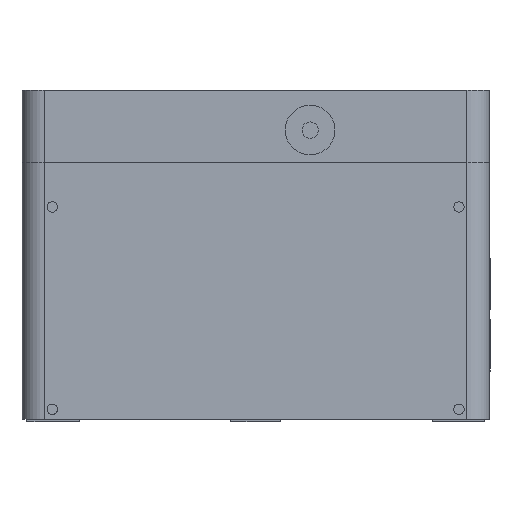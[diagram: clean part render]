
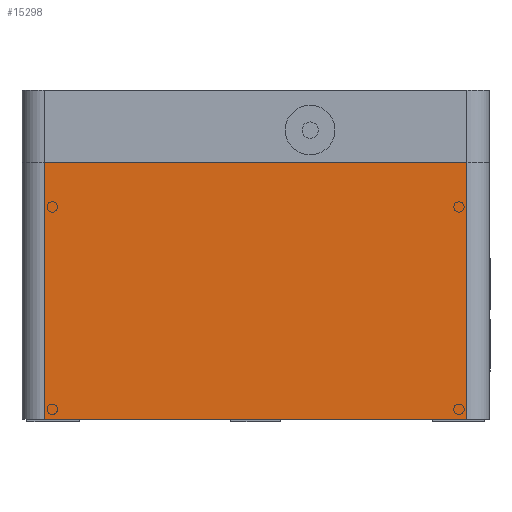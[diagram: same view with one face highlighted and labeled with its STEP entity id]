
A CAD part, front view. The second image highlights one B-rep face of the part: STEP entity #15298.
In plain terms, the highlighted planar face has unit normal (0, -1, 0).
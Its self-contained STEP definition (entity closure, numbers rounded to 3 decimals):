
#1462=PLANE('',#16115);
#2289=FACE_OUTER_BOUND('',#3222,.T.);
#3222=EDGE_LOOP('',(#14308,#14309,#14310,#14311));
#3335=LINE('',#19375,#4647);
#3393=LINE('',#20643,#4705);
#4547=LINE('',#31177,#5859);
#4548=LINE('',#31179,#5860);
#4647=VECTOR('',#16445,10.);
#4705=VECTOR('',#16613,10.);
#5859=VECTOR('',#18999,10.);
#5860=VECTOR('',#19002,10.);
#6261=VERTEX_POINT('',#19372);
#6262=VERTEX_POINT('',#19374);
#6408=VERTEX_POINT('',#20640);
#6409=VERTEX_POINT('',#20642);
#7813=EDGE_CURVE('',#6261,#6262,#3335,.T.);
#7964=EDGE_CURVE('',#6409,#6408,#3393,.T.);
#9883=EDGE_CURVE('',#6408,#6262,#4547,.T.);
#9884=EDGE_CURVE('',#6409,#6261,#4548,.T.);
#14308=ORIENTED_EDGE('',*,*,#9883,.T.);
#14309=ORIENTED_EDGE('',*,*,#7813,.F.);
#14310=ORIENTED_EDGE('',*,*,#9884,.F.);
#14311=ORIENTED_EDGE('',*,*,#7964,.T.);
#15298=ADVANCED_FACE('',(#2289),#1462,.T.);
#16115=AXIS2_PLACEMENT_3D('',#31178,#19000,#19001);
#16445=DIRECTION('',(1.,0.,0.));
#16613=DIRECTION('',(1.,0.,0.));
#18999=DIRECTION('',(0.,0.,1.));
#19000=DIRECTION('center_axis',(0.,-1.,0.));
#19001=DIRECTION('ref_axis',(1.,0.,0.));
#19002=DIRECTION('',(0.,0.,1.));
#19372=CARTESIAN_POINT('',(-5.,-12.5,104.35));
#19374=CARTESIAN_POINT('',(165.,-12.5,104.35));
#19375=CARTESIAN_POINT('',(37.5,-12.5,104.35));
#20640=CARTESIAN_POINT('',(165.,-12.5,0.9));
#20642=CARTESIAN_POINT('',(-5.,-12.5,0.9));
#20643=CARTESIAN_POINT('',(122.5,-12.5,0.9));
#31177=CARTESIAN_POINT('',(165.,-12.5,89.9));
#31178=CARTESIAN_POINT('Origin',(-5.,-12.5,89.9));
#31179=CARTESIAN_POINT('',(-5.,-12.5,89.9));
